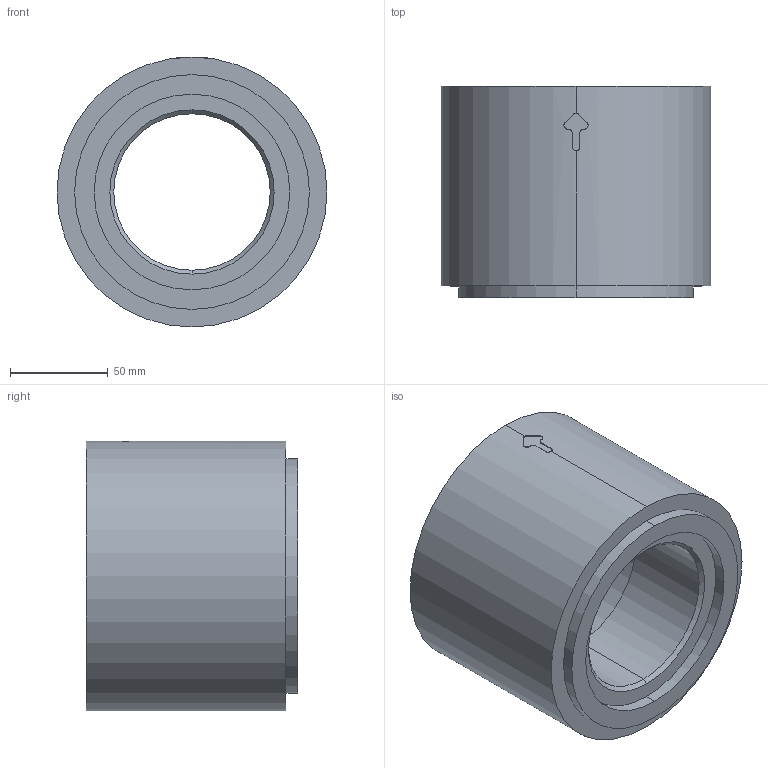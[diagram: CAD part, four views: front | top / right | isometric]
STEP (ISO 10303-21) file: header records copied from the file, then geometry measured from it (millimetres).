
FILE_DESCRIPTION (( 'STEP AP203' ), '1' );
FILE_NAME ('3吋圓形止回閥.STEP', '2014-04-17T01:37:34', ( 'jameswang' ), ( '' ), 'SwSTEP 2.0', 'SolidWorks 2013', '' );
FILE_SCHEMA (( 'CONFIG_CONTROL_DESIGN' ));
Length unit declared in the file: millimetre
Products named in the file (1): 3吋圓形止回閥
Bounding box: 138 x 108 x 138 mm (x, y, z)
Volume: 904116.5 mm3; surface area: 96468 mm2
Topology: 1 solids, 1 shells, 34 faces, 82 edges, 54 vertices
Faces by surface type: cylinder 19, plane 13, cone 2
Entity records: 1183 total; most frequent: CARTESIAN_POINT 292, DIRECTION 176, ORIENTED_EDGE 164, EDGE_CURVE 82, AXIS2_PLACEMENT_3D 70, VERTEX_POINT 54, EDGE_LOOP 40, LINE 36
